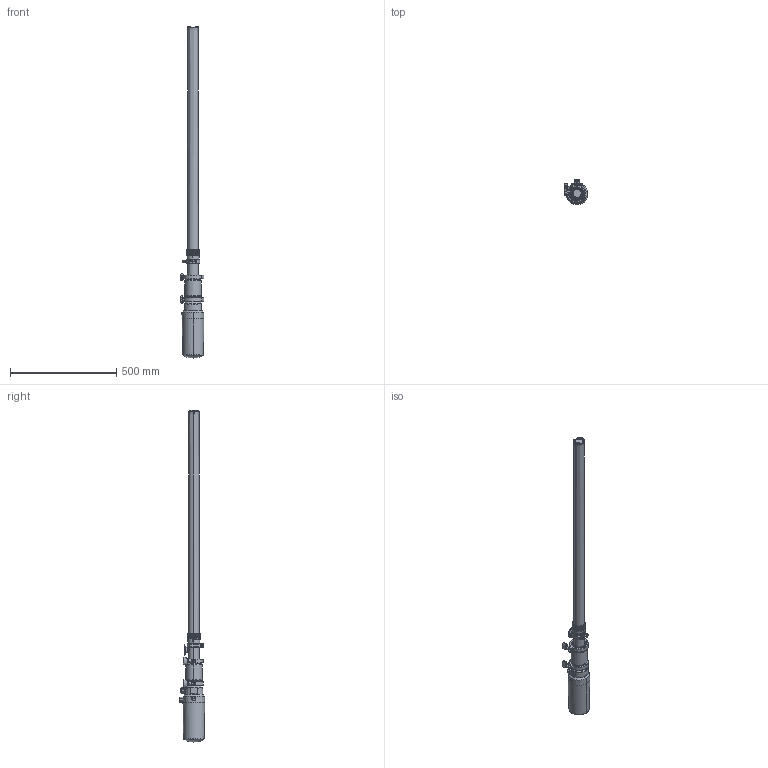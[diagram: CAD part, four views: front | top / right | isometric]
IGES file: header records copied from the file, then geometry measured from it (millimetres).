
Start section:  PTC IGES file: 24n300-en-s.igs
Global section: file name: 24n300-en-s.igs; native system: Creo Parametric by PTC Inc.; preprocessor: 2019030; author: qusrh3; organization: Unknown; date: 20200518.132937; units: inch
Bounding box: 112.77 x 119.45 x 1563.01 mm (x, y, z)
Surface area: 370302.2 mm2 (no closed solid volume)
Topology: 0 solids, 0 shells, 414 faces, 2074 edges, 2072 vertices
Faces by surface type: revolution 263, bspline 151
